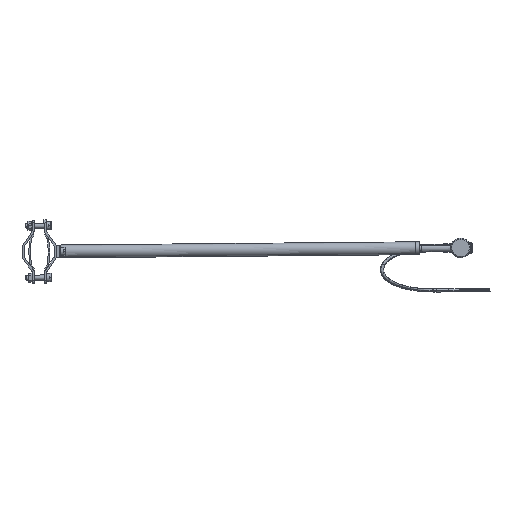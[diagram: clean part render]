
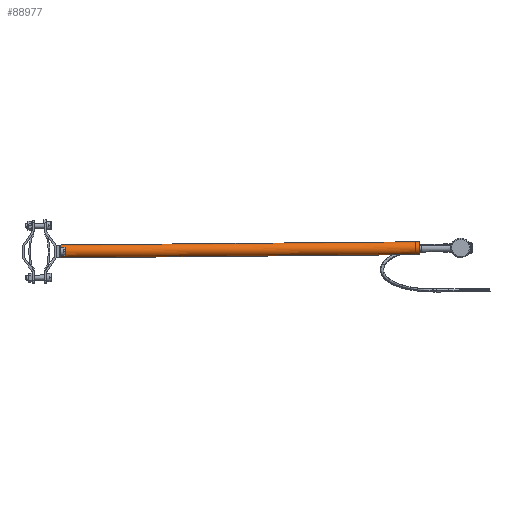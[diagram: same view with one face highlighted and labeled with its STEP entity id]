
A CAD part, front view. The second image highlights one B-rep face of the part: STEP entity #88977.
In plain terms, the highlighted cylindrical face has radius 12.5 mm (diameter 25 mm), a partial arc.
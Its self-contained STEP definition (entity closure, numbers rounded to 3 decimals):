
#2167 = EDGE_CURVE ( 'NONE', #68839, #8826, #15218, .T. ) ;
#5474 = CARTESIAN_POINT ( 'NONE',  ( 12.5, 0., 6. ) ) ;
#8826 = VERTEX_POINT ( 'NONE', #5474 ) ;
#11688 = VECTOR ( 'NONE', #48344, 1000. ) ;
#14932 = VECTOR ( 'NONE', #93993, 1000. ) ;
#15218 = LINE ( 'NONE', #75804, #11688 ) ;
#22169 = CARTESIAN_POINT ( 'NONE',  ( -12.5, 0., 6. ) ) ;
#24247 = LINE ( 'NONE', #59115, #14932 ) ;
#27809 = DIRECTION ( 'NONE',  ( 1., 0., 0. ) ) ;
#29711 = CARTESIAN_POINT ( 'NONE',  ( 0., 0., 706. ) ) ;
#33237 = VERTEX_POINT ( 'NONE', #22169 ) ;
#33976 = CIRCLE ( 'NONE', #81526, 12.5 ) ;
#37196 = DIRECTION ( 'NONE',  ( 0., 0., -1. ) ) ;
#42882 = ORIENTED_EDGE ( 'NONE', *, *, #76435, .T. ) ;
#44952 = DIRECTION ( 'NONE',  ( 1., 0., 0. ) ) ;
#46137 = DIRECTION ( 'NONE',  ( 0., 0., 1. ) ) ;
#46429 = EDGE_LOOP ( 'NONE', ( #91520, #90298, #67774, #42882 ) ) ;
#47293 = CARTESIAN_POINT ( 'NONE',  ( 12.5, 0., 706. ) ) ;
#48344 = DIRECTION ( 'NONE',  ( 0., 0., -1. ) ) ;
#49930 = AXIS2_PLACEMENT_3D ( 'NONE', #61515, #51272, #44952 ) ;
#51272 = DIRECTION ( 'NONE',  ( 0., 0., 1. ) ) ;
#55280 = VERTEX_POINT ( 'NONE', #102481 ) ;
#59115 = CARTESIAN_POINT ( 'NONE',  ( -12.5, 0., 706. ) ) ;
#61515 = CARTESIAN_POINT ( 'NONE',  ( 0., 0., 706. ) ) ;
#62979 = EDGE_CURVE ( 'NONE', #55280, #33237, #24247, .T. ) ;
#67774 = ORIENTED_EDGE ( 'NONE', *, *, #62979, .T. ) ;
#68839 = VERTEX_POINT ( 'NONE', #47293 ) ;
#75804 = CARTESIAN_POINT ( 'NONE',  ( 12.5, 0., 706. ) ) ;
#76435 = EDGE_CURVE ( 'NONE', #33237, #8826, #33976, .T. ) ;
#77524 = EDGE_CURVE ( 'NONE', #55280, #68839, #88265, .T. ) ;
#78551 = AXIS2_PLACEMENT_3D ( 'NONE', #29711, #37196, #89799 ) ;
#81526 = AXIS2_PLACEMENT_3D ( 'NONE', #107281, #46137, #27809 ) ;
#88265 = CIRCLE ( 'NONE', #49930, 12.5 ) ;
#88977 = ADVANCED_FACE ( 'NONE', ( #98950 ), #108036, .T. ) ;
#89799 = DIRECTION ( 'NONE',  ( -1., 0., 0. ) ) ;
#90298 = ORIENTED_EDGE ( 'NONE', *, *, #77524, .F. ) ;
#91520 = ORIENTED_EDGE ( 'NONE', *, *, #2167, .F. ) ;
#93993 = DIRECTION ( 'NONE',  ( 0., 0., -1. ) ) ;
#98950 = FACE_OUTER_BOUND ( 'NONE', #46429, .T. ) ;
#102481 = CARTESIAN_POINT ( 'NONE',  ( -12.5, 0., 706. ) ) ;
#107281 = CARTESIAN_POINT ( 'NONE',  ( 0., 0., 6. ) ) ;
#108036 = CYLINDRICAL_SURFACE ( 'NONE', #78551, 12.5 ) ;
